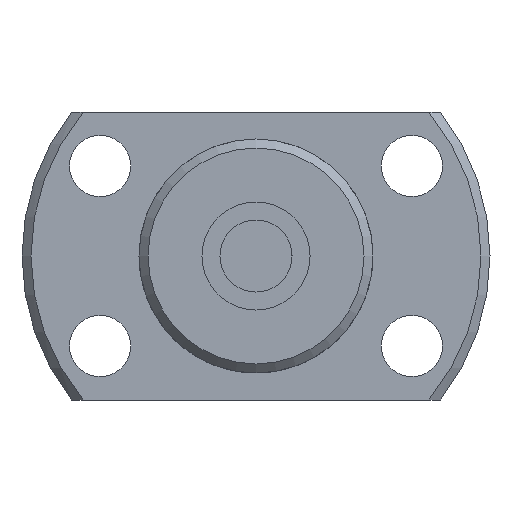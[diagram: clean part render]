
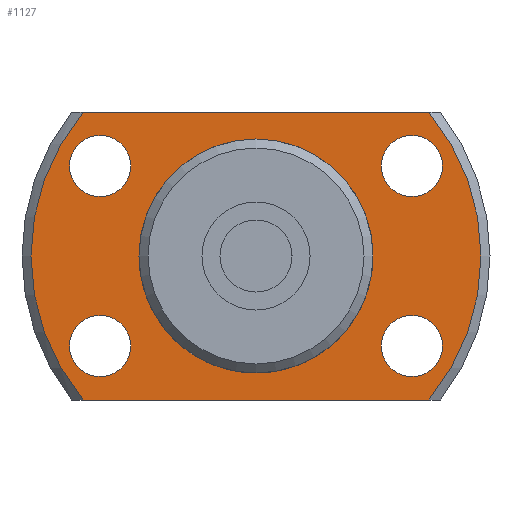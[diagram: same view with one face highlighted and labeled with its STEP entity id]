
A CAD part, left-side view. The second image highlights one B-rep face of the part: STEP entity #1127.
In plain terms, the highlighted planar face has unit normal (-1, 0, 0) as drawn and (1, 0, 0) by its records, which use the part's own axes.
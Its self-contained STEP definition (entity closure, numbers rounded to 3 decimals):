
#93=LINE('',#1952,#159);
#94=LINE('',#1954,#160);
#159=VECTOR('',#1578,1000.);
#160=VECTOR('',#1579,1000.);
#362=ORIENTED_EDGE('',*,*,#609,.T.);
#363=ORIENTED_EDGE('',*,*,#591,.T.);
#364=ORIENTED_EDGE('',*,*,#610,.T.);
#365=ORIENTED_EDGE('',*,*,#611,.T.);
#366=ORIENTED_EDGE('',*,*,#612,.F.);
#367=ORIENTED_EDGE('',*,*,#613,.F.);
#368=ORIENTED_EDGE('',*,*,#614,.F.);
#369=ORIENTED_EDGE('',*,*,#615,.F.);
#370=ORIENTED_EDGE('',*,*,#584,.F.);
#584=EDGE_CURVE('',#717,#717,#798,.T.);
#591=EDGE_CURVE('',#721,#723,#801,.T.);
#609=EDGE_CURVE('',#739,#721,#93,.T.);
#610=EDGE_CURVE('',#723,#740,#94,.T.);
#611=EDGE_CURVE('',#740,#739,#813,.T.);
#612=EDGE_CURVE('',#741,#741,#814,.T.);
#613=EDGE_CURVE('',#742,#742,#815,.T.);
#614=EDGE_CURVE('',#743,#743,#816,.T.);
#615=EDGE_CURVE('',#744,#744,#817,.T.);
#717=VERTEX_POINT('',#1886);
#721=VERTEX_POINT('',#1898);
#723=VERTEX_POINT('',#1905);
#739=VERTEX_POINT('',#1953);
#740=VERTEX_POINT('',#1955);
#741=VERTEX_POINT('',#1958);
#742=VERTEX_POINT('',#1960);
#743=VERTEX_POINT('',#1962);
#744=VERTEX_POINT('',#1964);
#798=CIRCLE('',#1262,6.3);
#801=CIRCLE('',#1266,12.5);
#813=CIRCLE('',#1285,12.5);
#814=CIRCLE('',#1286,1.7);
#815=CIRCLE('',#1287,1.7);
#816=CIRCLE('',#1288,1.7);
#817=CIRCLE('',#1289,1.7);
#897=EDGE_LOOP('',(#362,#363,#364,#365));
#898=EDGE_LOOP('',(#366));
#899=EDGE_LOOP('',(#367));
#900=EDGE_LOOP('',(#368));
#901=EDGE_LOOP('',(#369));
#902=EDGE_LOOP('',(#370));
#1009=FACE_BOUND('',#897,.T.);
#1010=FACE_BOUND('',#898,.T.);
#1011=FACE_BOUND('',#899,.T.);
#1012=FACE_BOUND('',#900,.T.);
#1013=FACE_BOUND('',#901,.T.);
#1014=FACE_BOUND('',#902,.T.);
#1068=PLANE('',#1284);
#1127=ADVANCED_FACE('',(#1009,#1010,#1011,#1012,#1013,#1014),#1068,.T.);
#1262=AXIS2_PLACEMENT_3D('',#1885,#1526,#1527);
#1266=AXIS2_PLACEMENT_3D('',#1906,#1536,#1537);
#1284=AXIS2_PLACEMENT_3D('',#1951,#1576,#1577);
#1285=AXIS2_PLACEMENT_3D('',#1956,#1580,#1581);
#1286=AXIS2_PLACEMENT_3D('',#1957,#1582,#1583);
#1287=AXIS2_PLACEMENT_3D('',#1959,#1584,#1585);
#1288=AXIS2_PLACEMENT_3D('',#1961,#1586,#1587);
#1289=AXIS2_PLACEMENT_3D('',#1963,#1588,#1589);
#1526=DIRECTION('',(1.,0.,0.));
#1527=DIRECTION('',(0.,0.,-1.));
#1536=DIRECTION('',(1.,0.,0.));
#1537=DIRECTION('',(0.,0.,-1.));
#1576=DIRECTION('',(1.,0.,0.));
#1577=DIRECTION('',(0.,0.,-1.));
#1578=DIRECTION('',(0.,-1.,0.));
#1579=DIRECTION('',(0.,1.,0.));
#1580=DIRECTION('',(1.,0.,0.));
#1581=DIRECTION('',(0.,0.,-1.));
#1582=DIRECTION('',(1.,0.,0.));
#1583=DIRECTION('',(0.,0.,-1.));
#1584=DIRECTION('',(1.,0.,0.));
#1585=DIRECTION('',(0.,0.,-1.));
#1586=DIRECTION('',(1.,0.,0.));
#1587=DIRECTION('',(0.,0.,-1.));
#1588=DIRECTION('',(1.,0.,0.));
#1589=DIRECTION('',(0.,0.,-1.));
#1885=CARTESIAN_POINT('',(4.,0.,0.));
#1886=CARTESIAN_POINT('',(4.,0.,-6.3));
#1898=CARTESIAN_POINT('',(4.,-9.605,8.));
#1905=CARTESIAN_POINT('',(4.,-9.605,-8.));
#1906=CARTESIAN_POINT('',(4.,0.,0.));
#1951=CARTESIAN_POINT('',(4.,6.3,0.));
#1952=CARTESIAN_POINT('',(4.,13.,8.));
#1953=CARTESIAN_POINT('',(4.,9.605,8.));
#1954=CARTESIAN_POINT('',(4.,-13.,-8.));
#1955=CARTESIAN_POINT('',(4.,9.605,-8.));
#1956=CARTESIAN_POINT('',(4.,0.,0.));
#1957=CARTESIAN_POINT('',(4.,8.66,5.));
#1958=CARTESIAN_POINT('',(4.,8.66,3.3));
#1959=CARTESIAN_POINT('',(4.,-8.66,5.));
#1960=CARTESIAN_POINT('',(4.,-8.66,3.3));
#1961=CARTESIAN_POINT('',(4.,-8.66,-5.));
#1962=CARTESIAN_POINT('',(4.,-8.66,-6.7));
#1963=CARTESIAN_POINT('',(4.,8.66,-5.));
#1964=CARTESIAN_POINT('',(4.,8.66,-6.7));
